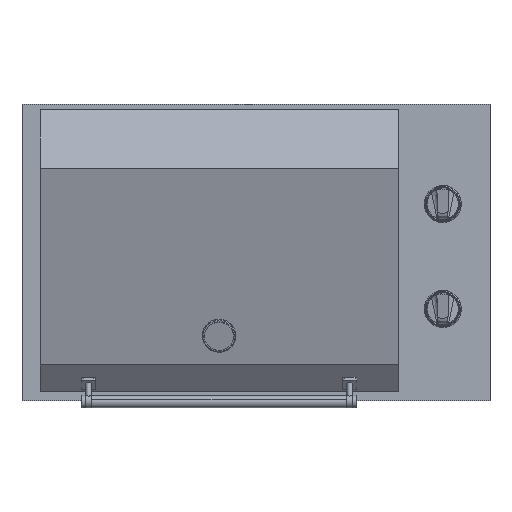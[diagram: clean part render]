
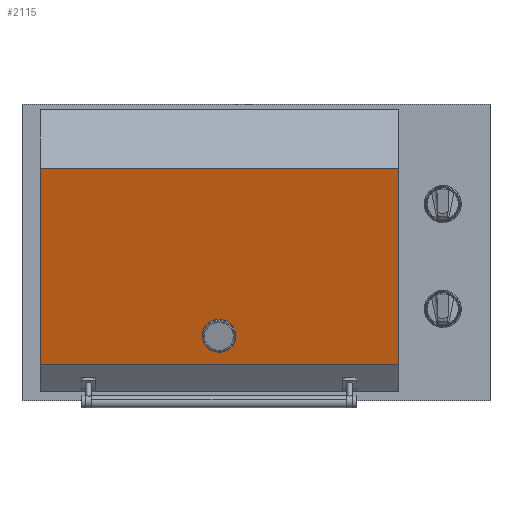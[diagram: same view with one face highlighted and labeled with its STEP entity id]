
A CAD part, top view. The second image highlights one B-rep face of the part: STEP entity #2115.
In plain terms, the highlighted planar face has unit normal (0, -0.259, 0.966).
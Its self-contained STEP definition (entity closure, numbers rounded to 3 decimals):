
#118=LINE('',#4440,#207);
#120=LINE('',#4444,#209);
#122=LINE('',#4448,#211);
#126=LINE('',#4456,#215);
#207=VECTOR('',#2967,1000.);
#209=VECTOR('',#2971,1000.);
#211=VECTOR('',#2975,1000.);
#215=VECTOR('',#2983,1000.);
#280=PLANE('',#2620);
#702=ORIENTED_EDGE('',*,*,#1179,.F.);
#703=ORIENTED_EDGE('',*,*,#1175,.F.);
#704=ORIENTED_EDGE('',*,*,#1173,.T.);
#705=ORIENTED_EDGE('',*,*,#1171,.T.);
#1171=EDGE_CURVE('',#1442,#1441,#118,.T.);
#1173=EDGE_CURVE('',#1443,#1442,#120,.T.);
#1175=EDGE_CURVE('',#1443,#1444,#122,.T.);
#1179=EDGE_CURVE('',#1444,#1441,#126,.T.);
#1441=VERTEX_POINT('',#4439);
#1442=VERTEX_POINT('',#4441);
#1443=VERTEX_POINT('',#4445);
#1444=VERTEX_POINT('',#4449);
#1762=EDGE_LOOP('',(#702,#703,#704,#705));
#1929=FACE_BOUND('',#1762,.T.);
#2115=ADVANCED_FACE('',(#1929),#280,.F.);
#2620=AXIS2_PLACEMENT_3D('',#4457,#2984,#2985);
#2967=DIRECTION('',(0.,0.966,0.259));
#2971=DIRECTION('',(1.,0.,0.));
#2975=DIRECTION('',(0.,0.966,0.259));
#2983=DIRECTION('',(1.,0.,0.));
#2984=DIRECTION('',(0.,0.259,-0.966));
#2985=DIRECTION('',(0.,0.966,0.259));
#4439=CARTESIAN_POINT('',(-138.4,389.758,345.126));
#4440=CARTESIAN_POINT('',(-138.4,38.259,250.942));
#4441=CARTESIAN_POINT('',(-138.4,38.259,250.942));
#4444=CARTESIAN_POINT('',(-778.,38.259,250.942));
#4445=CARTESIAN_POINT('',(-778.,38.259,250.942));
#4448=CARTESIAN_POINT('',(-778.,38.259,250.942));
#4449=CARTESIAN_POINT('',(-778.,389.758,345.126));
#4456=CARTESIAN_POINT('',(-778.,389.758,345.126));
#4457=CARTESIAN_POINT('',(-778.,38.259,250.942));
